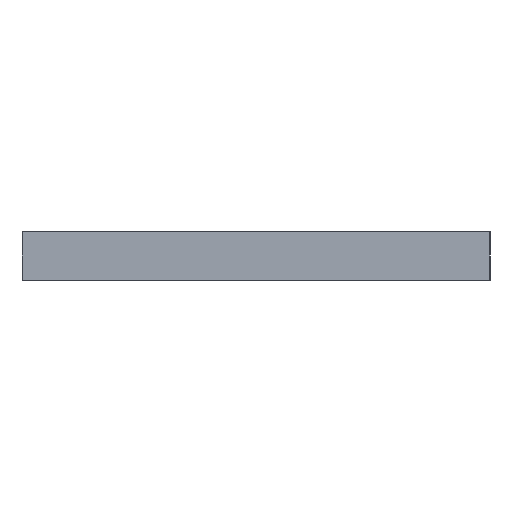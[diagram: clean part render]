
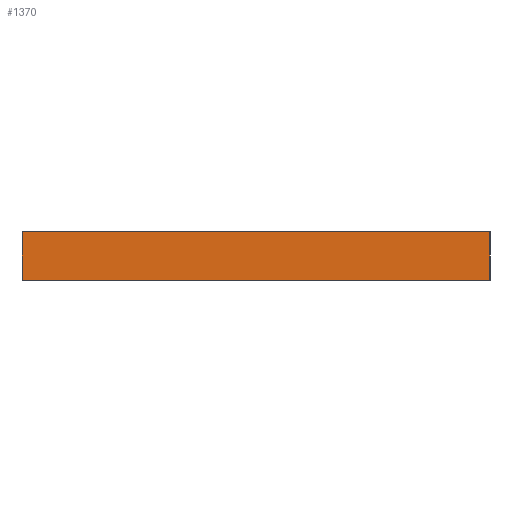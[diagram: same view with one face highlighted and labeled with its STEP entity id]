
A CAD part, left-side view. The second image highlights one B-rep face of the part: STEP entity #1370.
In plain terms, the highlighted planar face has unit normal (-1, 0, 0).
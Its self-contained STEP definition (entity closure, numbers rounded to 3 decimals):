
#22 = VERTEX_POINT('',#23);
#23 = CARTESIAN_POINT('',(18.3,47.,25.));
#32 = PLANE('',#33);
#33 = AXIS2_PLACEMENT_3D('',#34,#35,#36);
#34 = CARTESIAN_POINT('',(-47.,-47.,25.));
#35 = DIRECTION('',(0.,0.,1.));
#36 = DIRECTION('',(1.,0.,-0.));
#44 = PLANE('',#45);
#45 = AXIS2_PLACEMENT_3D('',#46,#47,#48);
#46 = CARTESIAN_POINT('',(-47.,47.,22.));
#47 = DIRECTION('',(0.,1.,0.));
#48 = DIRECTION('',(0.,-0.,1.));
#56 = EDGE_CURVE('',#57,#22,#59,.T.);
#57 = VERTEX_POINT('',#58);
#58 = CARTESIAN_POINT('',(18.3,18.3,25.));
#59 = SURFACE_CURVE('',#60,(#64,#70),.PCURVE_S1.);
#60 = LINE('',#61,#62);
#61 = CARTESIAN_POINT('',(18.3,-14.35,25.));
#62 = VECTOR('',#63,1.);
#63 = DIRECTION('',(0.,1.,0.));
#64 = PCURVE('',#32,#65);
#65 = DEFINITIONAL_REPRESENTATION('',(#66),#69);
#66 = B_SPLINE_CURVE_WITH_KNOTS('',1,(#67,#68),.UNSPECIFIED.,.F.,.F.,(2,
    2),(32.65,61.35),.PIECEWISE_BEZIER_KNOTS.);
#67 = CARTESIAN_POINT('',(65.3,65.3));
#68 = CARTESIAN_POINT('',(65.3,94.));
#69 = ( GEOMETRIC_REPRESENTATION_CONTEXT(2) 
PARAMETRIC_REPRESENTATION_CONTEXT() REPRESENTATION_CONTEXT('2D SPACE',''
  ) );
#70 = PCURVE('',#71,#76);
#71 = PLANE('',#72);
#72 = AXIS2_PLACEMENT_3D('',#73,#74,#75);
#73 = CARTESIAN_POINT('',(18.3,18.3,22.));
#74 = DIRECTION('',(1.,0.,0.));
#75 = DIRECTION('',(0.,0.,1.));
#76 = DEFINITIONAL_REPRESENTATION('',(#77),#80);
#77 = B_SPLINE_CURVE_WITH_KNOTS('',1,(#78,#79),.UNSPECIFIED.,.F.,.F.,(2,
    2),(32.65,61.35),.PIECEWISE_BEZIER_KNOTS.);
#78 = CARTESIAN_POINT('',(3.,0.));
#79 = CARTESIAN_POINT('',(3.,-28.7));
#80 = ( GEOMETRIC_REPRESENTATION_CONTEXT(2) 
PARAMETRIC_REPRESENTATION_CONTEXT() REPRESENTATION_CONTEXT('2D SPACE',''
  ) );
#97 = PLANE('',#98);
#98 = AXIS2_PLACEMENT_3D('',#99,#100,#101);
#99 = CARTESIAN_POINT('',(18.3,18.3,22.));
#100 = DIRECTION('',(0.,1.,0.));
#101 = DIRECTION('',(0.,0.,1.));
#603 = PLANE('',#604);
#604 = AXIS2_PLACEMENT_3D('',#605,#606,#607);
#605 = CARTESIAN_POINT('',(-47.,-47.,22.));
#606 = DIRECTION('',(0.,0.,1.));
#607 = DIRECTION('',(1.,0.,-0.));
#623 = VERTEX_POINT('',#624);
#624 = CARTESIAN_POINT('',(18.3,47.,22.));
#647 = EDGE_CURVE('',#623,#648,#650,.T.);
#648 = VERTEX_POINT('',#649);
#649 = CARTESIAN_POINT('',(18.3,18.3,22.));
#650 = SURFACE_CURVE('',#651,(#655,#662),.PCURVE_S1.);
#651 = LINE('',#652,#653);
#652 = CARTESIAN_POINT('',(18.3,47.,22.));
#653 = VECTOR('',#654,1.);
#654 = DIRECTION('',(0.,-1.,0.));
#655 = PCURVE('',#603,#656);
#656 = DEFINITIONAL_REPRESENTATION('',(#657),#661);
#657 = LINE('',#658,#659);
#658 = CARTESIAN_POINT('',(65.3,94.));
#659 = VECTOR('',#660,1.);
#660 = DIRECTION('',(0.,-1.));
#661 = ( GEOMETRIC_REPRESENTATION_CONTEXT(2) 
PARAMETRIC_REPRESENTATION_CONTEXT() REPRESENTATION_CONTEXT('2D SPACE',''
  ) );
#662 = PCURVE('',#71,#663);
#663 = DEFINITIONAL_REPRESENTATION('',(#664),#668);
#664 = LINE('',#665,#666);
#665 = CARTESIAN_POINT('',(0.,-28.7));
#666 = VECTOR('',#667,1.);
#667 = DIRECTION('',(0.,1.));
#668 = ( GEOMETRIC_REPRESENTATION_CONTEXT(2) 
PARAMETRIC_REPRESENTATION_CONTEXT() REPRESENTATION_CONTEXT('2D SPACE',''
  ) );
#1370 = ADVANCED_FACE('',(#1371),#71,.F.);
#1371 = FACE_BOUND('',#1372,.F.);
#1372 = EDGE_LOOP('',(#1373,#1394,#1395,#1416));
#1373 = ORIENTED_EDGE('',*,*,#1374,.F.);
#1374 = EDGE_CURVE('',#648,#57,#1375,.T.);
#1375 = SURFACE_CURVE('',#1376,(#1380,#1387),.PCURVE_S1.);
#1376 = LINE('',#1377,#1378);
#1377 = CARTESIAN_POINT('',(18.3,18.3,22.));
#1378 = VECTOR('',#1379,1.);
#1379 = DIRECTION('',(0.,0.,1.));
#1380 = PCURVE('',#71,#1381);
#1381 = DEFINITIONAL_REPRESENTATION('',(#1382),#1386);
#1382 = LINE('',#1383,#1384);
#1383 = CARTESIAN_POINT('',(0.,0.));
#1384 = VECTOR('',#1385,1.);
#1385 = DIRECTION('',(1.,0.));
#1386 = ( GEOMETRIC_REPRESENTATION_CONTEXT(2) 
PARAMETRIC_REPRESENTATION_CONTEXT() REPRESENTATION_CONTEXT('2D SPACE',''
  ) );
#1387 = PCURVE('',#97,#1388);
#1388 = DEFINITIONAL_REPRESENTATION('',(#1389),#1393);
#1389 = LINE('',#1390,#1391);
#1390 = CARTESIAN_POINT('',(0.,0.));
#1391 = VECTOR('',#1392,1.);
#1392 = DIRECTION('',(1.,0.));
#1393 = ( GEOMETRIC_REPRESENTATION_CONTEXT(2) 
PARAMETRIC_REPRESENTATION_CONTEXT() REPRESENTATION_CONTEXT('2D SPACE',''
  ) );
#1394 = ORIENTED_EDGE('',*,*,#647,.F.);
#1395 = ORIENTED_EDGE('',*,*,#1396,.T.);
#1396 = EDGE_CURVE('',#623,#22,#1397,.T.);
#1397 = SURFACE_CURVE('',#1398,(#1402,#1409),.PCURVE_S1.);
#1398 = LINE('',#1399,#1400);
#1399 = CARTESIAN_POINT('',(18.3,47.,22.));
#1400 = VECTOR('',#1401,1.);
#1401 = DIRECTION('',(0.,0.,1.));
#1402 = PCURVE('',#71,#1403);
#1403 = DEFINITIONAL_REPRESENTATION('',(#1404),#1408);
#1404 = LINE('',#1405,#1406);
#1405 = CARTESIAN_POINT('',(0.,-28.7));
#1406 = VECTOR('',#1407,1.);
#1407 = DIRECTION('',(1.,0.));
#1408 = ( GEOMETRIC_REPRESENTATION_CONTEXT(2) 
PARAMETRIC_REPRESENTATION_CONTEXT() REPRESENTATION_CONTEXT('2D SPACE',''
  ) );
#1409 = PCURVE('',#44,#1410);
#1410 = DEFINITIONAL_REPRESENTATION('',(#1411),#1415);
#1411 = LINE('',#1412,#1413);
#1412 = CARTESIAN_POINT('',(0.,65.3));
#1413 = VECTOR('',#1414,1.);
#1414 = DIRECTION('',(1.,0.));
#1415 = ( GEOMETRIC_REPRESENTATION_CONTEXT(2) 
PARAMETRIC_REPRESENTATION_CONTEXT() REPRESENTATION_CONTEXT('2D SPACE',''
  ) );
#1416 = ORIENTED_EDGE('',*,*,#56,.F.);
